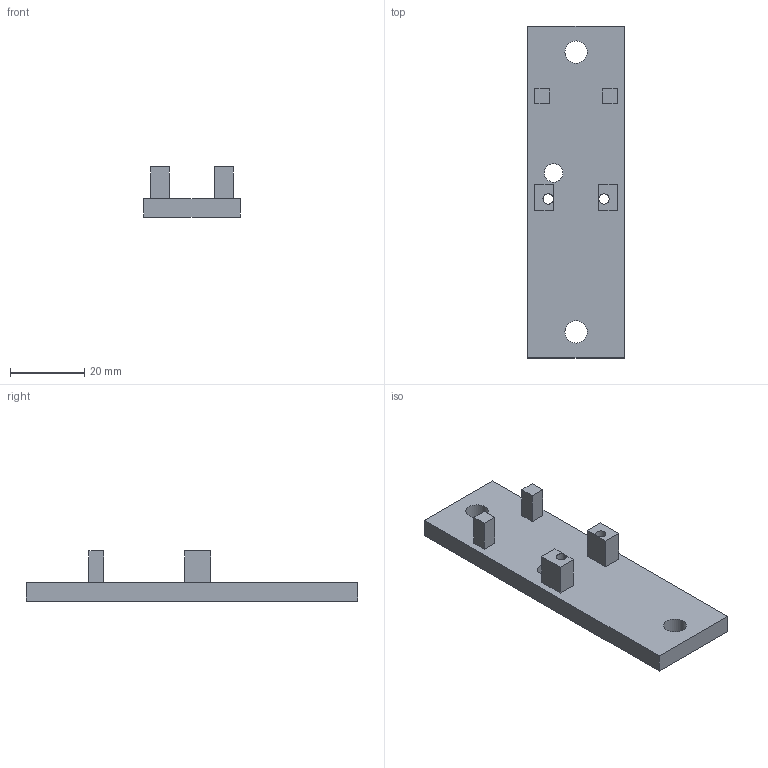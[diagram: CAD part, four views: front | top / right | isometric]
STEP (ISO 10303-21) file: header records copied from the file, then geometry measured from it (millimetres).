
FILE_DESCRIPTION(('FreeCAD Model'),'2;1');
FILE_NAME('C:/WHu/3D-Printer/Designs-WHU/FT5/Safety processor/Detector base.step', '2017-09-24T12:07:15',('Author'),(''), 'Open CASCADE STEP processor 6.8','FreeCAD','Unknown');
FILE_SCHEMA(('AUTOMOTIVE_DESIGN_CC2 { 1 2 10303 214 -1 1 5 4 }'));
Length unit declared in the file: millimetre
Products named in the file (2): ASSEMBLY; Detector_base
Assembly tree (1 placements, depth 2):
  ASSEMBLY
    Detector_base
Bounding box: 26 x 89.2 x 13.5 mm (x, y, z)
Volume: 11916.1 mm3; surface area: 6789.6 mm2
Topology: 1 solids, 1 shells, 32 faces, 81 edges, 54 vertices
Faces by surface type: plane 27, cylinder 5
Full cylindrical faces by diameter (mm): 2.8 x2, 5 x1, 6 x2
Entity records: 2379 total; most frequent: CARTESIAN_POINT 697, DIRECTION 298, LINE 200, VECTOR 200, ORIENTED_EDGE 162, PCURVE 162, DEFINITIONAL_REPRESENTATION 162, EDGE_CURVE 81
